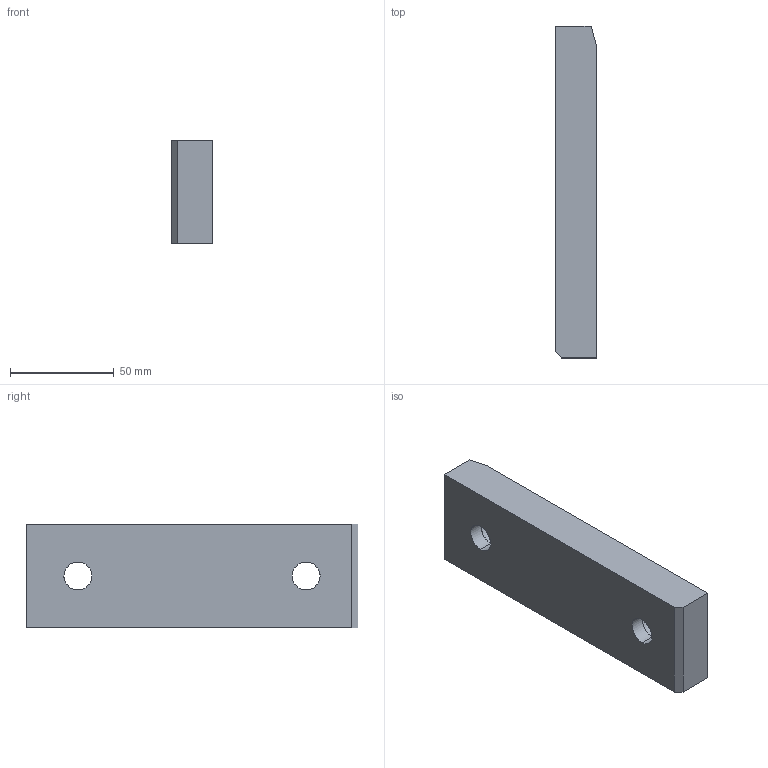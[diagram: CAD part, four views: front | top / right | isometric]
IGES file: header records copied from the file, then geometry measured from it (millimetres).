
Start section: START RECORD GO HERE.
Global section: file name: A915-50X160.igs; native system: DASSAULT SYSTEMES CATIA V5 R20 - www.3ds.com; preprocessor: CATIA Version 5 Release 20 ; author: Utente; organization: NB04-ASUS; date: 20200407.204643; units: millimetre
Bounding box: 20 x 160 x 50 mm (x, y, z)
Surface area: 25660.6 mm2 (no closed solid volume)
Topology: 0 solids, 0 shells, 23 faces, 106 edges, 106 vertices
Faces by surface type: revolution 13, extrusion 10
